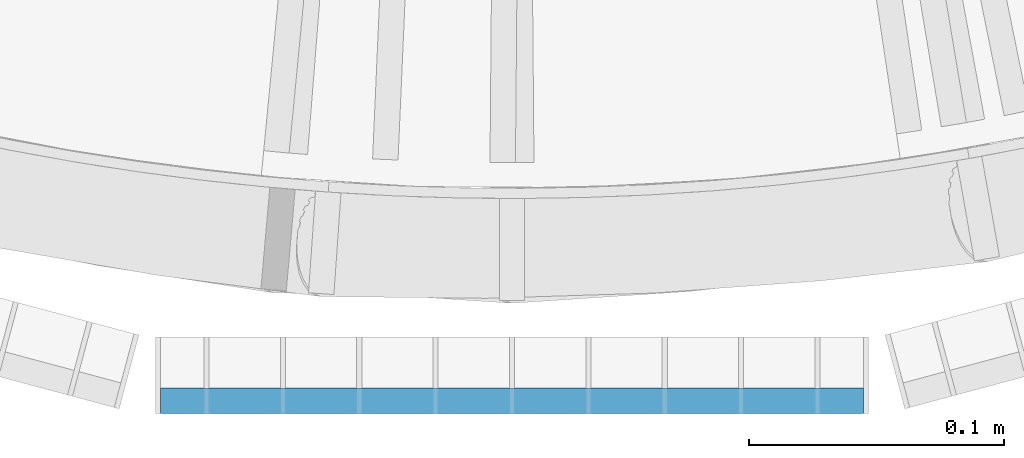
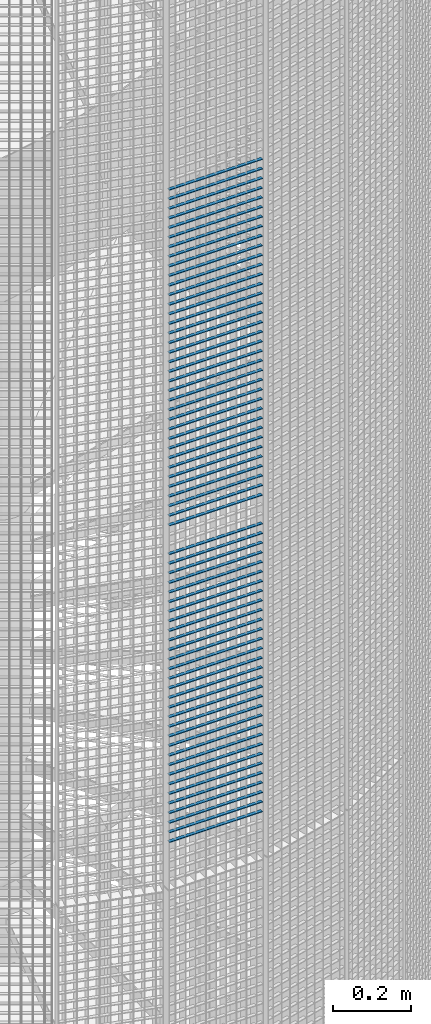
# One storey, part 155 of 1148: 67 beams, 1 element without a shape of its own.
"""IFC2X3 building model written with IfcOpenShell, lengths in millimetres."""

from ifc_helpers import new_model, si_unit, frame, origin_with_axes, origin_2d_with_axis, place, context, subcontext, project, spatial, rectangle, extrude, material, type_object, element, aggregate, save


model = new_model("IFC2X3")

# Units and contexts
model_context = context("Model", 3, precision=1e-05, world=origin_with_axes())
body_context = subcontext(model_context, "Body", "Model", "MODEL_VIEW")
ifc_project = project(units=[si_unit("LENGTHUNIT", "METRE", prefix="MILLI"), si_unit("AREAUNIT", "SQUARE_METRE"), si_unit("VOLUMEUNIT", "CUBIC_METRE"), si_unit("MASSUNIT", "GRAM", prefix="KILO"), si_unit("TIMEUNIT", "SECOND"), si_unit("PLANEANGLEUNIT", "RADIAN"), si_unit("SOLIDANGLEUNIT", "STERADIAN"), si_unit("THERMODYNAMICTEMPERATUREUNIT", "DEGREE_CELSIUS"), si_unit("LUMINOUSINTENSITYUNIT", "LUMEN")], contexts=[model_context])

# Site, building, storey
site_placement = place(None, origin_with_axes())
site = spatial("IfcSite", under=ifc_project, at=site_placement, Name="Undefined", CompositionType="ELEMENT")
building_placement = place(site_placement, origin_with_axes())
building = spatial("IfcBuilding", under=site, at=building_placement, Name="Undefined", CompositionType="ELEMENT")
storey_placement = place(building_placement, origin_with_axes())
storey = spatial("IfcBuildingStorey", under=building, at=storey_placement, Name="Undefined", CompositionType="ELEMENT", Elevation=0.0)

# Assembly, beams
assembly_placement = place(storey_placement, origin_with_axes())
assembly = element("IfcElementAssembly", 1, at=assembly_placement, inside=storey, Name="BORDURE", AssemblyPlace="NOTDEFINED", PredefinedType="NOTDEFINED")
ifc_material = material(Name="STEEL/S235JR")
beam_type = type_object("IfcBeamType", Name="PL2*10", PredefinedType="NOTDEFINED")
beam_1_placement = place(assembly_placement, frame((-137.996003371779, -1113.47999999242, 8190.0), z_axis=(0.0, -1.0, 0.0), x_axis=(1.0, 0.0, 0.0)))
beam_1 = element("IfcBeam", 2, at=beam_1_placement, type_object=beam_type, material=ifc_material, Name="ENTRETOISE", context=body_context, shape_type="SweptSolid", body=[
    extrude(rectangle(XDim=2.0, YDim=10.0, at=origin_2d_with_axis()), frame((275.999999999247, 9.09494701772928e-13, 1.53210777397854e-14), z_axis=(-1.0, 0.0, 0.0), x_axis=(0.0, -1.0, 0.0)), (0.0, 0.0, 1.0), 276.0),
])
beam_2_placement = place(assembly_placement, frame((-137.996003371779, -1113.47999999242, 8160.0), z_axis=(0.0, -1.0, 0.0), x_axis=(1.0, 0.0, 0.0)))
beam_2 = element("IfcBeam", 3, at=beam_2_placement, type_object=beam_type, material=ifc_material, Name="ENTRETOISE", context=body_context, shape_type="SweptSolid", body=[
    extrude(rectangle(XDim=2.0, YDim=10.0, at=origin_2d_with_axis()), frame((275.999999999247, 9.09494701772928e-13, 1.53210777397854e-14), z_axis=(-1.0, 0.0, 0.0), x_axis=(0.0, -1.0, 0.0)), (0.0, 0.0, 1.0), 276.0),
])
beam_3_placement = place(assembly_placement, frame((-137.996003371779, -1113.47999999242, 8130.0), z_axis=(0.0, -1.0, 0.0), x_axis=(1.0, 0.0, 0.0)))
beam_3 = element("IfcBeam", 4, at=beam_3_placement, type_object=beam_type, material=ifc_material, Name="ENTRETOISE", context=body_context, shape_type="SweptSolid", body=[
    extrude(rectangle(XDim=2.0, YDim=10.0, at=origin_2d_with_axis()), frame((275.999999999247, 9.09494701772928e-13, 1.53210777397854e-14), z_axis=(-1.0, 0.0, 0.0), x_axis=(0.0, -1.0, 0.0)), (0.0, 0.0, 1.0), 276.0),
])
beam_4_placement = place(assembly_placement, frame((-137.996003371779, -1113.47999999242, 8100.0), z_axis=(0.0, -1.0, 0.0), x_axis=(1.0, 0.0, 0.0)))
beam_4 = element("IfcBeam", 5, at=beam_4_placement, type_object=beam_type, material=ifc_material, Name="ENTRETOISE", context=body_context, shape_type="SweptSolid", body=[
    extrude(rectangle(XDim=2.0, YDim=10.0, at=origin_2d_with_axis()), frame((275.999999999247, 9.09494701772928e-13, 1.53210777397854e-14), z_axis=(-1.0, 0.0, 0.0), x_axis=(0.0, -1.0, 0.0)), (0.0, 0.0, 1.0), 276.0),
])
beam_5_placement = place(assembly_placement, frame((-137.996003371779, -1113.47999999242, 8070.0), z_axis=(0.0, -1.0, 0.0), x_axis=(1.0, 0.0, 0.0)))
beam_5 = element("IfcBeam", 6, at=beam_5_placement, type_object=beam_type, material=ifc_material, Name="ENTRETOISE", context=body_context, shape_type="SweptSolid", body=[
    extrude(rectangle(XDim=2.0, YDim=10.0, at=origin_2d_with_axis()), frame((275.999999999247, 9.09494701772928e-13, 1.53210777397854e-14), z_axis=(-1.0, 0.0, 0.0), x_axis=(0.0, -1.0, 0.0)), (0.0, 0.0, 1.0), 276.0),
])
beam_6_placement = place(assembly_placement, frame((-137.996003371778, -1113.47999999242, 8040.0), z_axis=(0.0, -1.0, 0.0), x_axis=(1.0, 0.0, 0.0)))
beam_6 = element("IfcBeam", 7, at=beam_6_placement, type_object=beam_type, material=ifc_material, Name="ENTRETOISE", context=body_context, shape_type="SweptSolid", body=[
    extrude(rectangle(XDim=2.0, YDim=10.0, at=origin_2d_with_axis()), frame((275.999999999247, 9.09494701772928e-13, 1.53210777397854e-14), z_axis=(-1.0, 0.0, 0.0), x_axis=(0.0, -1.0, 0.0)), (0.0, 0.0, 1.0), 276.0),
])
beam_7_placement = place(assembly_placement, frame((-137.996003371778, -1113.47999999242, 8010.0), z_axis=(0.0, -1.0, 0.0), x_axis=(1.0, 0.0, 0.0)))
beam_7 = element("IfcBeam", 8, at=beam_7_placement, type_object=beam_type, material=ifc_material, Name="ENTRETOISE", context=body_context, shape_type="SweptSolid", body=[
    extrude(rectangle(XDim=2.0, YDim=10.0, at=origin_2d_with_axis()), frame((275.999999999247, 9.09494701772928e-13, 1.53210777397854e-14), z_axis=(-1.0, 0.0, 0.0), x_axis=(0.0, -1.0, 0.0)), (0.0, 0.0, 1.0), 276.0),
])
beam_8_placement = place(assembly_placement, frame((-137.996003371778, -1113.47999999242, 7980.0), z_axis=(0.0, -1.0, 0.0), x_axis=(1.0, 0.0, 0.0)))
beam_8 = element("IfcBeam", 9, at=beam_8_placement, type_object=beam_type, material=ifc_material, Name="ENTRETOISE", context=body_context, shape_type="SweptSolid", body=[
    extrude(rectangle(XDim=2.0, YDim=10.0, at=origin_2d_with_axis()), frame((275.999999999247, 9.09494701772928e-13, 1.53210777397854e-14), z_axis=(-1.0, 0.0, 0.0), x_axis=(0.0, -1.0, 0.0)), (0.0, 0.0, 1.0), 276.0),
])
beam_9_placement = place(assembly_placement, frame((-137.996003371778, -1113.47999999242, 7950.0), z_axis=(0.0, -1.0, 0.0), x_axis=(1.0, 0.0, 0.0)))
beam_9 = element("IfcBeam", 10, at=beam_9_placement, type_object=beam_type, material=ifc_material, Name="ENTRETOISE", context=body_context, shape_type="SweptSolid", body=[
    extrude(rectangle(XDim=2.0, YDim=10.0, at=origin_2d_with_axis()), frame((275.999999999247, 9.09494701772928e-13, 1.53210777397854e-14), z_axis=(-1.0, 0.0, 0.0), x_axis=(0.0, -1.0, 0.0)), (0.0, 0.0, 1.0), 276.0),
])
beam_10_placement = place(assembly_placement, frame((-137.996003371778, -1113.47999999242, 7920.0), z_axis=(0.0, -1.0, 0.0), x_axis=(1.0, 0.0, 0.0)))
beam_10 = element("IfcBeam", 11, at=beam_10_placement, type_object=beam_type, material=ifc_material, Name="ENTRETOISE", context=body_context, shape_type="SweptSolid", body=[
    extrude(rectangle(XDim=2.0, YDim=10.0, at=origin_2d_with_axis()), frame((275.999999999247, 9.09494701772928e-13, 1.53210777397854e-14), z_axis=(-1.0, 0.0, 0.0), x_axis=(0.0, -1.0, 0.0)), (0.0, 0.0, 1.0), 276.0),
])
beam_11_placement = place(assembly_placement, frame((-137.996003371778, -1113.47999999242, 7890.0), z_axis=(0.0, -1.0, 0.0), x_axis=(1.0, 0.0, 0.0)))
beam_11 = element("IfcBeam", 12, at=beam_11_placement, type_object=beam_type, material=ifc_material, Name="ENTRETOISE", context=body_context, shape_type="SweptSolid", body=[
    extrude(rectangle(XDim=2.0, YDim=10.0, at=origin_2d_with_axis()), frame((275.999999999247, 9.09494701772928e-13, 1.53210777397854e-14), z_axis=(-1.0, 0.0, 0.0), x_axis=(0.0, -1.0, 0.0)), (0.0, 0.0, 1.0), 276.0),
])
beam_12_placement = place(assembly_placement, frame((-137.996003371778, -1113.47999999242, 7860.0), z_axis=(0.0, -1.0, 0.0), x_axis=(1.0, 0.0, 0.0)))
beam_12 = element("IfcBeam", 13, at=beam_12_placement, type_object=beam_type, material=ifc_material, Name="ENTRETOISE", context=body_context, shape_type="SweptSolid", body=[
    extrude(rectangle(XDim=2.0, YDim=10.0, at=origin_2d_with_axis()), frame((275.999999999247, 9.09494701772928e-13, 1.53210777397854e-14), z_axis=(-1.0, 0.0, 0.0), x_axis=(0.0, -1.0, 0.0)), (0.0, 0.0, 1.0), 276.0),
])
beam_13_placement = place(assembly_placement, frame((-137.996003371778, -1113.47999999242, 7830.0), z_axis=(0.0, -1.0, 0.0), x_axis=(1.0, 0.0, 0.0)))
beam_13 = element("IfcBeam", 14, at=beam_13_placement, type_object=beam_type, material=ifc_material, Name="ENTRETOISE", context=body_context, shape_type="SweptSolid", body=[
    extrude(rectangle(XDim=2.0, YDim=10.0, at=origin_2d_with_axis()), frame((275.999999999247, 9.09494701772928e-13, 1.53210777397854e-14), z_axis=(-1.0, 0.0, 0.0), x_axis=(0.0, -1.0, 0.0)), (0.0, 0.0, 1.0), 276.0),
])
beam_14_placement = place(assembly_placement, frame((-137.996003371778, -1113.47999999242, 7800.0), z_axis=(0.0, -1.0, 0.0), x_axis=(1.0, 0.0, 0.0)))
beam_14 = element("IfcBeam", 15, at=beam_14_placement, type_object=beam_type, material=ifc_material, Name="ENTRETOISE", context=body_context, shape_type="SweptSolid", body=[
    extrude(rectangle(XDim=2.0, YDim=10.0, at=origin_2d_with_axis()), frame((275.999999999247, 9.09494701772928e-13, 1.53210777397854e-14), z_axis=(-1.0, 0.0, 0.0), x_axis=(0.0, -1.0, 0.0)), (0.0, 0.0, 1.0), 276.0),
])
beam_15_placement = place(assembly_placement, frame((-137.996003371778, -1113.47999999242, 7770.0), z_axis=(0.0, -1.0, 0.0), x_axis=(1.0, 0.0, 0.0)))
beam_15 = element("IfcBeam", 16, at=beam_15_placement, type_object=beam_type, material=ifc_material, Name="ENTRETOISE", context=body_context, shape_type="SweptSolid", body=[
    extrude(rectangle(XDim=2.0, YDim=10.0, at=origin_2d_with_axis()), frame((275.999999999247, 9.09494701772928e-13, 1.53210777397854e-14), z_axis=(-1.0, 0.0, 0.0), x_axis=(0.0, -1.0, 0.0)), (0.0, 0.0, 1.0), 276.0),
])
beam_16_placement = place(assembly_placement, frame((-137.996003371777, -1113.47999999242, 7740.0), z_axis=(0.0, -1.0, 0.0), x_axis=(1.0, 0.0, 0.0)))
beam_16 = element("IfcBeam", 17, at=beam_16_placement, type_object=beam_type, material=ifc_material, Name="ENTRETOISE", context=body_context, shape_type="SweptSolid", body=[
    extrude(rectangle(XDim=2.0, YDim=10.0, at=origin_2d_with_axis()), frame((275.999999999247, 9.09494701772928e-13, 1.53210777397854e-14), z_axis=(-1.0, 0.0, 0.0), x_axis=(0.0, -1.0, 0.0)), (0.0, 0.0, 1.0), 276.0),
])
beam_17_placement = place(assembly_placement, frame((-137.996003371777, -1113.47999999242, 7710.0), z_axis=(0.0, -1.0, 0.0), x_axis=(1.0, 0.0, 0.0)))
beam_17 = element("IfcBeam", 18, at=beam_17_placement, type_object=beam_type, material=ifc_material, Name="ENTRETOISE", context=body_context, shape_type="SweptSolid", body=[
    extrude(rectangle(XDim=2.0, YDim=10.0, at=origin_2d_with_axis()), frame((275.999999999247, 9.09494701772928e-13, 1.53210777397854e-14), z_axis=(-1.0, 0.0, 0.0), x_axis=(0.0, -1.0, 0.0)), (0.0, 0.0, 1.0), 276.0),
])
beam_18_placement = place(assembly_placement, frame((-137.996003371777, -1113.47999999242, 7680.0), z_axis=(0.0, -1.0, 0.0), x_axis=(1.0, 0.0, 0.0)))
beam_18 = element("IfcBeam", 19, at=beam_18_placement, type_object=beam_type, material=ifc_material, Name="ENTRETOISE", context=body_context, shape_type="SweptSolid", body=[
    extrude(rectangle(XDim=2.0, YDim=10.0, at=origin_2d_with_axis()), frame((275.999999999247, 9.09494701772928e-13, 1.53210777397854e-14), z_axis=(-1.0, 0.0, 0.0), x_axis=(0.0, -1.0, 0.0)), (0.0, 0.0, 1.0), 276.0),
])
beam_19_placement = place(assembly_placement, frame((-137.996003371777, -1113.47999999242, 7650.0), z_axis=(0.0, -1.0, 0.0), x_axis=(1.0, 0.0, 0.0)))
beam_19 = element("IfcBeam", 20, at=beam_19_placement, type_object=beam_type, material=ifc_material, Name="ENTRETOISE", context=body_context, shape_type="SweptSolid", body=[
    extrude(rectangle(XDim=2.0, YDim=10.0, at=origin_2d_with_axis()), frame((275.999999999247, 9.09494701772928e-13, 1.53210777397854e-14), z_axis=(-1.0, 0.0, 0.0), x_axis=(0.0, -1.0, 0.0)), (0.0, 0.0, 1.0), 276.0),
])
beam_20_placement = place(assembly_placement, frame((-137.996003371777, -1113.47999999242, 7620.0), z_axis=(0.0, -1.0, 0.0), x_axis=(1.0, 0.0, 0.0)))
beam_20 = element("IfcBeam", 21, at=beam_20_placement, type_object=beam_type, material=ifc_material, Name="ENTRETOISE", context=body_context, shape_type="SweptSolid", body=[
    extrude(rectangle(XDim=2.0, YDim=10.0, at=origin_2d_with_axis()), frame((275.999999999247, 9.09494701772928e-13, 1.53210777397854e-14), z_axis=(-1.0, 0.0, 0.0), x_axis=(0.0, -1.0, 0.0)), (0.0, 0.0, 1.0), 276.0),
])
beam_21_placement = place(assembly_placement, frame((-137.996003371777, -1113.47999999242, 7590.0), z_axis=(0.0, -1.0, 0.0), x_axis=(1.0, 0.0, 0.0)))
beam_21 = element("IfcBeam", 22, at=beam_21_placement, type_object=beam_type, material=ifc_material, Name="ENTRETOISE", context=body_context, shape_type="SweptSolid", body=[
    extrude(rectangle(XDim=2.0, YDim=10.0, at=origin_2d_with_axis()), frame((275.999999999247, 9.09494701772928e-13, 1.53210777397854e-14), z_axis=(-1.0, 0.0, 0.0), x_axis=(0.0, -1.0, 0.0)), (0.0, 0.0, 1.0), 276.0),
])
beam_22_placement = place(assembly_placement, frame((-137.996003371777, -1113.47999999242, 7560.0), z_axis=(0.0, -1.0, 0.0), x_axis=(1.0, 0.0, 0.0)))
beam_22 = element("IfcBeam", 23, at=beam_22_placement, type_object=beam_type, material=ifc_material, Name="ENTRETOISE", context=body_context, shape_type="SweptSolid", body=[
    extrude(rectangle(XDim=2.0, YDim=10.0, at=origin_2d_with_axis()), frame((275.999999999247, 9.09494701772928e-13, 1.53210777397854e-14), z_axis=(-1.0, 0.0, 0.0), x_axis=(0.0, -1.0, 0.0)), (0.0, 0.0, 1.0), 276.0),
])
beam_23_placement = place(assembly_placement, frame((-137.996003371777, -1113.47999999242, 7530.0), z_axis=(0.0, -1.0, 0.0), x_axis=(1.0, 0.0, 0.0)))
beam_23 = element("IfcBeam", 24, at=beam_23_placement, type_object=beam_type, material=ifc_material, Name="ENTRETOISE", context=body_context, shape_type="SweptSolid", body=[
    extrude(rectangle(XDim=2.0, YDim=10.0, at=origin_2d_with_axis()), frame((275.999999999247, 9.09494701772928e-13, 1.53210777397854e-14), z_axis=(-1.0, 0.0, 0.0), x_axis=(0.0, -1.0, 0.0)), (0.0, 0.0, 1.0), 276.0),
])
beam_24_placement = place(assembly_placement, frame((-137.996003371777, -1113.47999999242, 7500.0), z_axis=(0.0, -1.0, 0.0), x_axis=(1.0, 0.0, 0.0)))
beam_24 = element("IfcBeam", 25, at=beam_24_placement, type_object=beam_type, material=ifc_material, Name="ENTRETOISE", context=body_context, shape_type="SweptSolid", body=[
    extrude(rectangle(XDim=2.0, YDim=10.0, at=origin_2d_with_axis()), frame((275.999999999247, 9.09494701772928e-13, 1.53210777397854e-14), z_axis=(-1.0, 0.0, 0.0), x_axis=(0.0, -1.0, 0.0)), (0.0, 0.0, 1.0), 276.0),
])
beam_25_placement = place(assembly_placement, frame((-137.996003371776, -1113.47999999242, 7470.0), z_axis=(0.0, -1.0, 0.0), x_axis=(1.0, 0.0, 0.0)))
beam_25 = element("IfcBeam", 26, at=beam_25_placement, type_object=beam_type, material=ifc_material, Name="ENTRETOISE", context=body_context, shape_type="SweptSolid", body=[
    extrude(rectangle(XDim=2.0, YDim=10.0, at=origin_2d_with_axis()), frame((275.999999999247, 9.09494701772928e-13, 1.53210777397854e-14), z_axis=(-1.0, 0.0, 0.0), x_axis=(0.0, -1.0, 0.0)), (0.0, 0.0, 1.0), 276.0),
])
beam_26_placement = place(assembly_placement, frame((-137.996003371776, -1113.47999999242, 7440.0), z_axis=(0.0, -1.0, 0.0), x_axis=(1.0, 0.0, 0.0)))
beam_26 = element("IfcBeam", 27, at=beam_26_placement, type_object=beam_type, material=ifc_material, Name="ENTRETOISE", context=body_context, shape_type="SweptSolid", body=[
    extrude(rectangle(XDim=2.0, YDim=10.0, at=origin_2d_with_axis()), frame((275.999999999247, 9.09494701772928e-13, 1.53210777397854e-14), z_axis=(-1.0, 0.0, 0.0), x_axis=(0.0, -1.0, 0.0)), (0.0, 0.0, 1.0), 276.0),
])
beam_27_placement = place(assembly_placement, frame((-137.996003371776, -1113.47999999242, 7410.0), z_axis=(0.0, -1.0, 0.0), x_axis=(1.0, 0.0, 0.0)))
beam_27 = element("IfcBeam", 28, at=beam_27_placement, type_object=beam_type, material=ifc_material, Name="ENTRETOISE", context=body_context, shape_type="SweptSolid", body=[
    extrude(rectangle(XDim=2.0, YDim=10.0, at=origin_2d_with_axis()), frame((275.999999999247, 9.09494701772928e-13, 1.53210777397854e-14), z_axis=(-1.0, 0.0, 0.0), x_axis=(0.0, -1.0, 0.0)), (0.0, 0.0, 1.0), 276.0),
])
beam_28_placement = place(assembly_placement, frame((-137.996003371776, -1113.47999999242, 7380.0), z_axis=(0.0, -1.0, 0.0), x_axis=(1.0, 0.0, 0.0)))
beam_28 = element("IfcBeam", 29, at=beam_28_placement, type_object=beam_type, material=ifc_material, Name="ENTRETOISE", context=body_context, shape_type="SweptSolid", body=[
    extrude(rectangle(XDim=2.0, YDim=10.0, at=origin_2d_with_axis()), frame((275.999999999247, 9.09494701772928e-13, 1.53210777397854e-14), z_axis=(-1.0, 0.0, 0.0), x_axis=(0.0, -1.0, 0.0)), (0.0, 0.0, 1.0), 276.0),
])
beam_29_placement = place(assembly_placement, frame((-137.996003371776, -1113.47999999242, 7350.0), z_axis=(0.0, -1.0, 0.0), x_axis=(1.0, 0.0, 0.0)))
beam_29 = element("IfcBeam", 30, at=beam_29_placement, type_object=beam_type, material=ifc_material, Name="ENTRETOISE", context=body_context, shape_type="SweptSolid", body=[
    extrude(rectangle(XDim=2.0, YDim=10.0, at=origin_2d_with_axis()), frame((275.999999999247, 9.09494701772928e-13, 1.53210777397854e-14), z_axis=(-1.0, 0.0, 0.0), x_axis=(0.0, -1.0, 0.0)), (0.0, 0.0, 1.0), 276.0),
])
beam_30_placement = place(assembly_placement, frame((-137.996003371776, -1113.47999999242, 7320.0), z_axis=(0.0, -1.0, 0.0), x_axis=(1.0, 0.0, 0.0)))
beam_30 = element("IfcBeam", 31, at=beam_30_placement, type_object=beam_type, material=ifc_material, Name="ENTRETOISE", context=body_context, shape_type="SweptSolid", body=[
    extrude(rectangle(XDim=2.0, YDim=10.0, at=origin_2d_with_axis()), frame((275.999999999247, 9.09494701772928e-13, 1.53210777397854e-14), z_axis=(-1.0, 0.0, 0.0), x_axis=(0.0, -1.0, 0.0)), (0.0, 0.0, 1.0), 276.0),
])
beam_31_placement = place(assembly_placement, frame((-137.996003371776, -1113.47999999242, 7290.0), z_axis=(0.0, -1.0, 0.0), x_axis=(1.0, 0.0, 0.0)))
beam_31 = element("IfcBeam", 32, at=beam_31_placement, type_object=beam_type, material=ifc_material, Name="ENTRETOISE", context=body_context, shape_type="SweptSolid", body=[
    extrude(rectangle(XDim=2.0, YDim=10.0, at=origin_2d_with_axis()), frame((275.999999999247, 9.09494701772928e-13, 1.53210777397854e-14), z_axis=(-1.0, 0.0, 0.0), x_axis=(0.0, -1.0, 0.0)), (0.0, 0.0, 1.0), 276.0),
])
beam_32_placement = place(assembly_placement, frame((-137.996003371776, -1113.47999999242, 7260.0), z_axis=(0.0, -1.0, 0.0), x_axis=(1.0, 0.0, 0.0)))
beam_32 = element("IfcBeam", 33, at=beam_32_placement, type_object=beam_type, material=ifc_material, Name="ENTRETOISE", context=body_context, shape_type="SweptSolid", body=[
    extrude(rectangle(XDim=2.0, YDim=10.0, at=origin_2d_with_axis()), frame((275.999999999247, 9.09494701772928e-13, 1.53210777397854e-14), z_axis=(-1.0, 0.0, 0.0), x_axis=(0.0, -1.0, 0.0)), (0.0, 0.0, 1.0), 276.0),
])
beam_33_placement = place(assembly_placement, frame((-137.996003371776, -1113.47999999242, 7230.0), z_axis=(0.0, -1.0, 0.0), x_axis=(1.0, 0.0, 0.0)))
beam_33 = element("IfcBeam", 34, at=beam_33_placement, type_object=beam_type, material=ifc_material, Name="ENTRETOISE", context=body_context, shape_type="SweptSolid", body=[
    extrude(rectangle(XDim=2.0, YDim=10.0, at=origin_2d_with_axis()), frame((275.999999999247, 9.09494701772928e-13, 1.53210777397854e-14), z_axis=(-1.0, 0.0, 0.0), x_axis=(0.0, -1.0, 0.0)), (0.0, 0.0, 1.0), 276.0),
])
beam_34_placement = place(assembly_placement, frame((-137.996003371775, -1113.47999999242, 7200.0), z_axis=(0.0, -1.0, 0.0), x_axis=(1.0, 0.0, 0.0)))
beam_34 = element("IfcBeam", 35, at=beam_34_placement, type_object=beam_type, material=ifc_material, Name="ENTRETOISE", context=body_context, shape_type="SweptSolid", body=[
    extrude(rectangle(XDim=2.0, YDim=10.0, at=origin_2d_with_axis()), frame((275.999999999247, 9.09494701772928e-13, 1.53210777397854e-14), z_axis=(-1.0, 0.0, 0.0), x_axis=(0.0, -1.0, 0.0)), (0.0, 0.0, 1.0), 276.0),
])
beam_35_placement = place(assembly_placement, frame((-137.996003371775, -1113.47999999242, 7170.0), z_axis=(0.0, -1.0, 0.0), x_axis=(1.0, 0.0, 0.0)))
beam_35 = element("IfcBeam", 36, at=beam_35_placement, type_object=beam_type, material=ifc_material, Name="ENTRETOISE", context=body_context, shape_type="SweptSolid", body=[
    extrude(rectangle(XDim=2.0, YDim=10.0, at=origin_2d_with_axis()), frame((275.999999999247, 9.09494701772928e-13, 1.53210777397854e-14), z_axis=(-1.0, 0.0, 0.0), x_axis=(0.0, -1.0, 0.0)), (0.0, 0.0, 1.0), 276.0),
])
beam_36_placement = place(assembly_placement, frame((-137.996003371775, -1113.47999999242, 7140.0), z_axis=(0.0, -1.0, 0.0), x_axis=(1.0, 0.0, 0.0)))
beam_36 = element("IfcBeam", 37, at=beam_36_placement, type_object=beam_type, material=ifc_material, Name="ENTRETOISE", context=body_context, shape_type="SweptSolid", body=[
    extrude(rectangle(XDim=2.0, YDim=10.0, at=origin_2d_with_axis()), frame((275.999999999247, 9.09494701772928e-13, 1.53210777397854e-14), z_axis=(-1.0, 0.0, 0.0), x_axis=(0.0, -1.0, 0.0)), (0.0, 0.0, 1.0), 276.0),
])
beam_37_placement = place(assembly_placement, frame((-137.996003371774, -1113.47999999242, 6720.0), z_axis=(0.0, -1.0, 0.0), x_axis=(1.0, 0.0, 0.0)))
beam_37 = element("IfcBeam", 38, at=beam_37_placement, type_object=beam_type, material=ifc_material, Name="ENTRETOISE", context=body_context, shape_type="SweptSolid", body=[
    extrude(rectangle(XDim=2.0, YDim=10.0, at=origin_2d_with_axis()), frame((275.999999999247, 9.09494701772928e-13, 1.53210777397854e-14), z_axis=(-1.0, 0.0, 0.0), x_axis=(0.0, -1.0, 0.0)), (0.0, 0.0, 1.0), 276.0),
])
beam_38_placement = place(assembly_placement, frame((-137.996003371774, -1113.47999999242, 6690.0), z_axis=(0.0, -1.0, 0.0), x_axis=(1.0, 0.0, 0.0)))
beam_38 = element("IfcBeam", 39, at=beam_38_placement, type_object=beam_type, material=ifc_material, Name="ENTRETOISE", context=body_context, shape_type="SweptSolid", body=[
    extrude(rectangle(XDim=2.0, YDim=10.0, at=origin_2d_with_axis()), frame((275.999999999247, 9.09494701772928e-13, 1.53210777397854e-14), z_axis=(-1.0, 0.0, 0.0), x_axis=(0.0, -1.0, 0.0)), (0.0, 0.0, 1.0), 276.0),
])
beam_39_placement = place(assembly_placement, frame((-137.996003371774, -1113.47999999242, 6750.0), z_axis=(0.0, -1.0, 0.0), x_axis=(1.0, 0.0, 0.0)))
beam_39 = element("IfcBeam", 40, at=beam_39_placement, type_object=beam_type, material=ifc_material, Name="ENTRETOISE", context=body_context, shape_type="SweptSolid", body=[
    extrude(rectangle(XDim=2.0, YDim=10.0, at=origin_2d_with_axis()), frame((275.999999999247, 9.09494701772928e-13, 1.53210777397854e-14), z_axis=(-1.0, 0.0, 0.0), x_axis=(0.0, -1.0, 0.0)), (0.0, 0.0, 1.0), 276.0),
])
beam_40_placement = place(assembly_placement, frame((-137.996003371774, -1113.47999999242, 6660.0), z_axis=(0.0, -1.0, 0.0), x_axis=(1.0, 0.0, 0.0)))
beam_40 = element("IfcBeam", 41, at=beam_40_placement, type_object=beam_type, material=ifc_material, Name="ENTRETOISE", context=body_context, shape_type="SweptSolid", body=[
    extrude(rectangle(XDim=2.0, YDim=10.0, at=origin_2d_with_axis()), frame((275.999999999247, 9.09494701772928e-13, 1.53210777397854e-14), z_axis=(-1.0, 0.0, 0.0), x_axis=(0.0, -1.0, 0.0)), (0.0, 0.0, 1.0), 276.0),
])
beam_41_placement = place(assembly_placement, frame((-137.996003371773, -1113.47999999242, 6630.0), z_axis=(0.0, -1.0, 0.0), x_axis=(1.0, 0.0, 0.0)))
beam_41 = element("IfcBeam", 42, at=beam_41_placement, type_object=beam_type, material=ifc_material, Name="ENTRETOISE", context=body_context, shape_type="SweptSolid", body=[
    extrude(rectangle(XDim=2.0, YDim=10.0, at=origin_2d_with_axis()), frame((275.999999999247, 9.09494701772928e-13, 1.53210777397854e-14), z_axis=(-1.0, 0.0, 0.0), x_axis=(0.0, -1.0, 0.0)), (0.0, 0.0, 1.0), 276.0),
])
beam_42_placement = place(assembly_placement, frame((-137.996003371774, -1113.47999999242, 6780.0), z_axis=(0.0, -1.0, 0.0), x_axis=(1.0, 0.0, 0.0)))
beam_42 = element("IfcBeam", 43, at=beam_42_placement, type_object=beam_type, material=ifc_material, Name="ENTRETOISE", context=body_context, shape_type="SweptSolid", body=[
    extrude(rectangle(XDim=2.0, YDim=10.0, at=origin_2d_with_axis()), frame((275.999999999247, 9.09494701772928e-13, 1.53210777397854e-14), z_axis=(-1.0, 0.0, 0.0), x_axis=(0.0, -1.0, 0.0)), (0.0, 0.0, 1.0), 276.0),
])
beam_43_placement = place(assembly_placement, frame((-137.996003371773, -1113.47999999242, 6600.0), z_axis=(0.0, -1.0, 0.0), x_axis=(1.0, 0.0, 0.0)))
beam_43 = element("IfcBeam", 44, at=beam_43_placement, type_object=beam_type, material=ifc_material, Name="ENTRETOISE", context=body_context, shape_type="SweptSolid", body=[
    extrude(rectangle(XDim=2.0, YDim=10.0, at=origin_2d_with_axis()), frame((275.999999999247, 9.09494701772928e-13, 1.53210777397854e-14), z_axis=(-1.0, 0.0, 0.0), x_axis=(0.0, -1.0, 0.0)), (0.0, 0.0, 1.0), 276.0),
])
beam_44_placement = place(assembly_placement, frame((-137.996003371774, -1113.47999999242, 6810.0), z_axis=(0.0, -1.0, 0.0), x_axis=(1.0, 0.0, 0.0)))
beam_44 = element("IfcBeam", 45, at=beam_44_placement, type_object=beam_type, material=ifc_material, Name="ENTRETOISE", context=body_context, shape_type="SweptSolid", body=[
    extrude(rectangle(XDim=2.0, YDim=10.0, at=origin_2d_with_axis()), frame((275.999999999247, 9.09494701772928e-13, 1.53210777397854e-14), z_axis=(-1.0, 0.0, 0.0), x_axis=(0.0, -1.0, 0.0)), (0.0, 0.0, 1.0), 276.0),
])
beam_45_placement = place(assembly_placement, frame((-137.996003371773, -1113.47999999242, 6570.0), z_axis=(0.0, -1.0, 0.0), x_axis=(1.0, 0.0, 0.0)))
beam_45 = element("IfcBeam", 46, at=beam_45_placement, type_object=beam_type, material=ifc_material, Name="ENTRETOISE", context=body_context, shape_type="SweptSolid", body=[
    extrude(rectangle(XDim=2.0, YDim=10.0, at=origin_2d_with_axis()), frame((275.999999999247, 9.09494701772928e-13, 1.53210777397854e-14), z_axis=(-1.0, 0.0, 0.0), x_axis=(0.0, -1.0, 0.0)), (0.0, 0.0, 1.0), 276.0),
])
beam_46_placement = place(assembly_placement, frame((-137.996003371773, -1113.47999999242, 6540.0), z_axis=(0.0, -1.0, 0.0), x_axis=(1.0, 0.0, 0.0)))
beam_46 = element("IfcBeam", 47, at=beam_46_placement, type_object=beam_type, material=ifc_material, Name="ENTRETOISE", context=body_context, shape_type="SweptSolid", body=[
    extrude(rectangle(XDim=2.0, YDim=10.0, at=origin_2d_with_axis()), frame((275.999999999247, 9.09494701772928e-13, 1.53210777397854e-14), z_axis=(-1.0, 0.0, 0.0), x_axis=(0.0, -1.0, 0.0)), (0.0, 0.0, 1.0), 276.0),
])
beam_47_placement = place(assembly_placement, frame((-137.996003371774, -1113.47999999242, 6840.0), z_axis=(0.0, -1.0, 0.0), x_axis=(1.0, 0.0, 0.0)))
beam_47 = element("IfcBeam", 48, at=beam_47_placement, type_object=beam_type, material=ifc_material, Name="ENTRETOISE", context=body_context, shape_type="SweptSolid", body=[
    extrude(rectangle(XDim=2.0, YDim=10.0, at=origin_2d_with_axis()), frame((275.999999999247, 9.09494701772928e-13, 1.53210777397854e-14), z_axis=(-1.0, 0.0, 0.0), x_axis=(0.0, -1.0, 0.0)), (0.0, 0.0, 1.0), 276.0),
])
beam_48_placement = place(assembly_placement, frame((-137.996003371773, -1113.47999999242, 6510.0), z_axis=(0.0, -1.0, 0.0), x_axis=(1.0, 0.0, 0.0)))
beam_48 = element("IfcBeam", 49, at=beam_48_placement, type_object=beam_type, material=ifc_material, Name="ENTRETOISE", context=body_context, shape_type="SweptSolid", body=[
    extrude(rectangle(XDim=2.0, YDim=10.0, at=origin_2d_with_axis()), frame((275.999999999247, 9.09494701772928e-13, 1.53210777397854e-14), z_axis=(-1.0, 0.0, 0.0), x_axis=(0.0, -1.0, 0.0)), (0.0, 0.0, 1.0), 276.0),
])
beam_49_placement = place(assembly_placement, frame((-137.996003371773, -1113.47999999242, 6480.0), z_axis=(0.0, -1.0, 0.0), x_axis=(1.0, 0.0, 0.0)))
beam_49 = element("IfcBeam", 50, at=beam_49_placement, type_object=beam_type, material=ifc_material, Name="ENTRETOISE", context=body_context, shape_type="SweptSolid", body=[
    extrude(rectangle(XDim=2.0, YDim=10.0, at=origin_2d_with_axis()), frame((275.999999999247, 9.09494701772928e-13, 1.53210777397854e-14), z_axis=(-1.0, 0.0, 0.0), x_axis=(0.0, -1.0, 0.0)), (0.0, 0.0, 1.0), 276.0),
])
beam_50_placement = place(assembly_placement, frame((-137.996003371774, -1113.47999999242, 6870.0), z_axis=(0.0, -1.0, 0.0), x_axis=(1.0, 0.0, 0.0)))
beam_50 = element("IfcBeam", 51, at=beam_50_placement, type_object=beam_type, material=ifc_material, Name="ENTRETOISE", context=body_context, shape_type="SweptSolid", body=[
    extrude(rectangle(XDim=2.0, YDim=10.0, at=origin_2d_with_axis()), frame((275.999999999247, 9.09494701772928e-13, 1.53210777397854e-14), z_axis=(-1.0, 0.0, 0.0), x_axis=(0.0, -1.0, 0.0)), (0.0, 0.0, 1.0), 276.0),
])
beam_51_placement = place(assembly_placement, frame((-137.996003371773, -1113.47999999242, 6450.0), z_axis=(0.0, -1.0, 0.0), x_axis=(1.0, 0.0, 0.0)))
beam_51 = element("IfcBeam", 52, at=beam_51_placement, type_object=beam_type, material=ifc_material, Name="ENTRETOISE", context=body_context, shape_type="SweptSolid", body=[
    extrude(rectangle(XDim=2.0, YDim=10.0, at=origin_2d_with_axis()), frame((275.999999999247, 9.09494701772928e-13, 1.53210777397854e-14), z_axis=(-1.0, 0.0, 0.0), x_axis=(0.0, -1.0, 0.0)), (0.0, 0.0, 1.0), 276.0),
])
beam_52_placement = place(assembly_placement, frame((-137.996003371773, -1113.47999999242, 6420.0), z_axis=(0.0, -1.0, 0.0), x_axis=(1.0, 0.0, 0.0)))
beam_52 = element("IfcBeam", 53, at=beam_52_placement, type_object=beam_type, material=ifc_material, Name="ENTRETOISE", context=body_context, shape_type="SweptSolid", body=[
    extrude(rectangle(XDim=2.0, YDim=10.0, at=origin_2d_with_axis()), frame((275.999999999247, 9.09494701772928e-13, 1.53210777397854e-14), z_axis=(-1.0, 0.0, 0.0), x_axis=(0.0, -1.0, 0.0)), (0.0, 0.0, 1.0), 276.0),
])
beam_53_placement = place(assembly_placement, frame((-137.996003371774, -1113.47999999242, 6900.0), z_axis=(0.0, -1.0, 0.0), x_axis=(1.0, 0.0, 0.0)))
beam_53 = element("IfcBeam", 54, at=beam_53_placement, type_object=beam_type, material=ifc_material, Name="ENTRETOISE", context=body_context, shape_type="SweptSolid", body=[
    extrude(rectangle(XDim=2.0, YDim=10.0, at=origin_2d_with_axis()), frame((275.999999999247, 9.09494701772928e-13, 1.53210777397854e-14), z_axis=(-1.0, 0.0, 0.0), x_axis=(0.0, -1.0, 0.0)), (0.0, 0.0, 1.0), 276.0),
])
beam_54_placement = place(assembly_placement, frame((-137.996003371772, -1113.47999999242, 6390.0), z_axis=(0.0, -1.0, 0.0), x_axis=(1.0, 0.0, 0.0)))
beam_54 = element("IfcBeam", 55, at=beam_54_placement, type_object=beam_type, material=ifc_material, Name="ENTRETOISE", context=body_context, shape_type="SweptSolid", body=[
    extrude(rectangle(XDim=2.0, YDim=10.0, at=origin_2d_with_axis()), frame((275.999999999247, 9.09494701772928e-13, 1.53210777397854e-14), z_axis=(-1.0, 0.0, 0.0), x_axis=(0.0, -1.0, 0.0)), (0.0, 0.0, 1.0), 276.0),
])
beam_55_placement = place(assembly_placement, frame((-137.996003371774, -1113.47999999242, 6930.0), z_axis=(0.0, -1.0, 0.0), x_axis=(1.0, 0.0, 0.0)))
beam_55 = element("IfcBeam", 56, at=beam_55_placement, type_object=beam_type, material=ifc_material, Name="ENTRETOISE", context=body_context, shape_type="SweptSolid", body=[
    extrude(rectangle(XDim=2.0, YDim=10.0, at=origin_2d_with_axis()), frame((275.999999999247, 9.09494701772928e-13, 1.53210777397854e-14), z_axis=(-1.0, 0.0, 0.0), x_axis=(0.0, -1.0, 0.0)), (0.0, 0.0, 1.0), 276.0),
])
beam_56_placement = place(assembly_placement, frame((-137.996003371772, -1113.47999999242, 6360.0), z_axis=(0.0, -1.0, 0.0), x_axis=(1.0, 0.0, 0.0)))
beam_56 = element("IfcBeam", 57, at=beam_56_placement, type_object=beam_type, material=ifc_material, Name="ENTRETOISE", context=body_context, shape_type="SweptSolid", body=[
    extrude(rectangle(XDim=2.0, YDim=10.0, at=origin_2d_with_axis()), frame((275.999999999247, 9.09494701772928e-13, 1.53210777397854e-14), z_axis=(-1.0, 0.0, 0.0), x_axis=(0.0, -1.0, 0.0)), (0.0, 0.0, 1.0), 276.0),
])
beam_57_placement = place(assembly_placement, frame((-137.996003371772, -1113.47999999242, 6330.0), z_axis=(0.0, -1.0, 0.0), x_axis=(1.0, 0.0, 0.0)))
beam_57 = element("IfcBeam", 58, at=beam_57_placement, type_object=beam_type, material=ifc_material, Name="ENTRETOISE", context=body_context, shape_type="SweptSolid", body=[
    extrude(rectangle(XDim=2.0, YDim=10.0, at=origin_2d_with_axis()), frame((275.999999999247, 9.09494701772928e-13, 1.53210777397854e-14), z_axis=(-1.0, 0.0, 0.0), x_axis=(0.0, -1.0, 0.0)), (0.0, 0.0, 1.0), 276.0),
])
beam_58_placement = place(assembly_placement, frame((-137.996003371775, -1113.47999999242, 6960.0), z_axis=(0.0, -1.0, 0.0), x_axis=(1.0, 0.0, 0.0)))
beam_58 = element("IfcBeam", 59, at=beam_58_placement, type_object=beam_type, material=ifc_material, Name="ENTRETOISE", context=body_context, shape_type="SweptSolid", body=[
    extrude(rectangle(XDim=2.0, YDim=10.0, at=origin_2d_with_axis()), frame((275.999999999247, 9.09494701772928e-13, 1.53210777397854e-14), z_axis=(-1.0, 0.0, 0.0), x_axis=(0.0, -1.0, 0.0)), (0.0, 0.0, 1.0), 276.0),
])
beam_59_placement = place(assembly_placement, frame((-137.996003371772, -1113.47999999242, 6300.0), z_axis=(0.0, -1.0, 0.0), x_axis=(1.0, 0.0, 0.0)))
beam_59 = element("IfcBeam", 60, at=beam_59_placement, type_object=beam_type, material=ifc_material, Name="ENTRETOISE", context=body_context, shape_type="SweptSolid", body=[
    extrude(rectangle(XDim=2.0, YDim=10.0, at=origin_2d_with_axis()), frame((275.999999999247, 9.09494701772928e-13, 1.53210777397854e-14), z_axis=(-1.0, 0.0, 0.0), x_axis=(0.0, -1.0, 0.0)), (0.0, 0.0, 1.0), 276.0),
])
beam_60_placement = place(assembly_placement, frame((-137.996003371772, -1113.47999999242, 6270.0), z_axis=(0.0, -1.0, 0.0), x_axis=(1.0, 0.0, 0.0)))
beam_60 = element("IfcBeam", 61, at=beam_60_placement, type_object=beam_type, material=ifc_material, Name="ENTRETOISE", context=body_context, shape_type="SweptSolid", body=[
    extrude(rectangle(XDim=2.0, YDim=10.0, at=origin_2d_with_axis()), frame((275.999999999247, 9.09494701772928e-13, 1.53210777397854e-14), z_axis=(-1.0, 0.0, 0.0), x_axis=(0.0, -1.0, 0.0)), (0.0, 0.0, 1.0), 276.0),
])
beam_61_placement = place(assembly_placement, frame((-137.996003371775, -1113.47999999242, 6990.0), z_axis=(0.0, -1.0, 0.0), x_axis=(1.0, 0.0, 0.0)))
beam_61 = element("IfcBeam", 62, at=beam_61_placement, type_object=beam_type, material=ifc_material, Name="ENTRETOISE", context=body_context, shape_type="SweptSolid", body=[
    extrude(rectangle(XDim=2.0, YDim=10.0, at=origin_2d_with_axis()), frame((275.999999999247, 9.09494701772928e-13, 1.53210777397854e-14), z_axis=(-1.0, 0.0, 0.0), x_axis=(0.0, -1.0, 0.0)), (0.0, 0.0, 1.0), 276.0),
])
beam_62_placement = place(assembly_placement, frame((-137.996003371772, -1113.47999999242, 6240.0), z_axis=(0.0, -1.0, 0.0), x_axis=(1.0, 0.0, 0.0)))
beam_62 = element("IfcBeam", 63, at=beam_62_placement, type_object=beam_type, material=ifc_material, Name="ENTRETOISE", context=body_context, shape_type="SweptSolid", body=[
    extrude(rectangle(XDim=2.0, YDim=10.0, at=origin_2d_with_axis()), frame((275.999999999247, 9.09494701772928e-13, 1.53210777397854e-14), z_axis=(-1.0, 0.0, 0.0), x_axis=(0.0, -1.0, 0.0)), (0.0, 0.0, 1.0), 276.0),
])
beam_63_placement = place(assembly_placement, frame((-137.996003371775, -1113.47999999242, 7020.0), z_axis=(0.0, -1.0, 0.0), x_axis=(1.0, 0.0, 0.0)))
beam_63 = element("IfcBeam", 64, at=beam_63_placement, type_object=beam_type, material=ifc_material, Name="ENTRETOISE", context=body_context, shape_type="SweptSolid", body=[
    extrude(rectangle(XDim=2.0, YDim=10.0, at=origin_2d_with_axis()), frame((275.999999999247, 9.09494701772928e-13, 1.53210777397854e-14), z_axis=(-1.0, 0.0, 0.0), x_axis=(0.0, -1.0, 0.0)), (0.0, 0.0, 1.0), 276.0),
])
beam_64_placement = place(assembly_placement, frame((-137.996003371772, -1113.47999999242, 6210.0), z_axis=(0.0, -1.0, 0.0), x_axis=(1.0, 0.0, 0.0)))
beam_64 = element("IfcBeam", 65, at=beam_64_placement, type_object=beam_type, material=ifc_material, Name="ENTRETOISE", context=body_context, shape_type="SweptSolid", body=[
    extrude(rectangle(XDim=2.0, YDim=10.0, at=origin_2d_with_axis()), frame((275.999999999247, 9.09494701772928e-13, 1.53210777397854e-14), z_axis=(-1.0, 0.0, 0.0), x_axis=(0.0, -1.0, 0.0)), (0.0, 0.0, 1.0), 276.0),
])
beam_65_placement = place(assembly_placement, frame((-137.996003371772, -1113.47999999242, 6180.0), z_axis=(0.0, -1.0, 0.0), x_axis=(1.0, 0.0, 0.0)))
beam_65 = element("IfcBeam", 66, at=beam_65_placement, type_object=beam_type, material=ifc_material, Name="ENTRETOISE", context=body_context, shape_type="SweptSolid", body=[
    extrude(rectangle(XDim=2.0, YDim=10.0, at=origin_2d_with_axis()), frame((275.999999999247, 9.09494701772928e-13, 1.53210777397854e-14), z_axis=(-1.0, 0.0, 0.0), x_axis=(0.0, -1.0, 0.0)), (0.0, 0.0, 1.0), 276.0),
])
beam_66_placement = place(assembly_placement, frame((-137.996003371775, -1113.47999999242, 7050.0), z_axis=(0.0, -1.0, 0.0), x_axis=(1.0, 0.0, 0.0)))
beam_66 = element("IfcBeam", 67, at=beam_66_placement, type_object=beam_type, material=ifc_material, Name="ENTRETOISE", context=body_context, shape_type="SweptSolid", body=[
    extrude(rectangle(XDim=2.0, YDim=10.0, at=origin_2d_with_axis()), frame((275.999999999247, 9.09494701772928e-13, 1.53210777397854e-14), z_axis=(-1.0, 0.0, 0.0), x_axis=(0.0, -1.0, 0.0)), (0.0, 0.0, 1.0), 276.0),
])
beam_67_placement = place(assembly_placement, frame((-137.996003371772, -1113.47999999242, 6150.0), z_axis=(0.0, -1.0, 0.0), x_axis=(1.0, 0.0, 0.0)))
beam_67 = element("IfcBeam", 68, at=beam_67_placement, type_object=beam_type, material=ifc_material, Name="ENTRETOISE", context=body_context, shape_type="SweptSolid", body=[
    extrude(rectangle(XDim=2.0, YDim=10.0, at=origin_2d_with_axis()), frame((275.999999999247, 9.09494701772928e-13, 1.53210777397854e-14), z_axis=(-1.0, 0.0, 0.0), x_axis=(0.0, -1.0, 0.0)), (0.0, 0.0, 1.0), 276.0),
])
aggregate(assembly, [beam_1, beam_2, beam_3, beam_4, beam_5, beam_6, beam_7, beam_8, beam_9, beam_10, beam_11, beam_12, beam_13, beam_14, beam_15, beam_16, beam_17, beam_18, beam_19, beam_20, beam_21, beam_22, beam_23, beam_24, beam_25, beam_26, beam_27, beam_28, beam_29, beam_30, beam_31, beam_32, beam_33, beam_34, beam_35, beam_36, beam_37, beam_38, beam_39, beam_40, beam_41, beam_42, beam_43, beam_44, beam_45, beam_46, beam_47, beam_48, beam_49, beam_50, beam_51, beam_52, beam_53, beam_54, beam_55, beam_56, beam_57, beam_58, beam_59, beam_60, beam_61, beam_62, beam_63, beam_64, beam_65, beam_66, beam_67])

save(model, "model.ifc")
